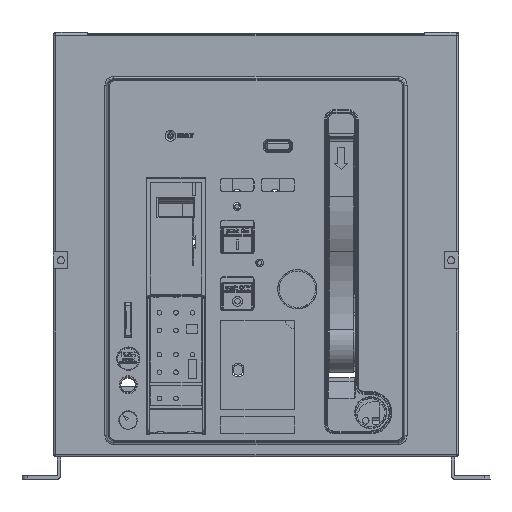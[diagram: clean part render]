
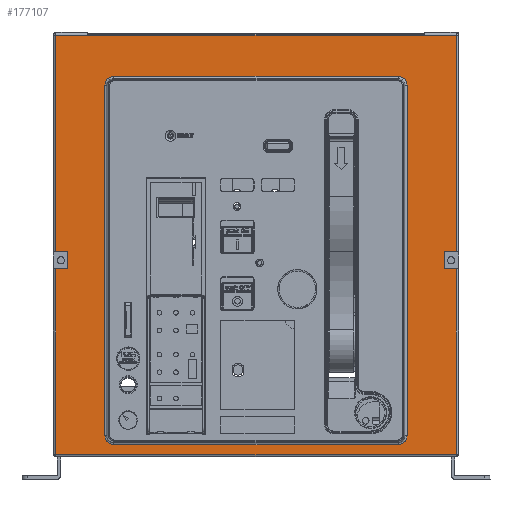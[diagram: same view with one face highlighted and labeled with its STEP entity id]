
A CAD part, top view. The second image highlights one B-rep face of the part: STEP entity #177107.
In plain terms, the highlighted planar face has unit normal (0, 0, 1).
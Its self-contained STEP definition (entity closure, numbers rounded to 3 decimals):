
#157858=DIRECTION('',(0.,1.,0.));
#157859=VECTOR('',#157858,15.4);
#157860=CARTESIAN_POINT('',(-170.5,-21.15,49.));
#157861=LINE('',#157860,#157859);
#157862=DIRECTION('',(-1.,0.,0.));
#157863=VECTOR('',#157862,11.017);
#157864=CARTESIAN_POINT('',(-170.5,-5.75,49.));
#157865=LINE('',#157864,#157863);
#157866=DIRECTION('',(1.,0.,0.));
#157867=VECTOR('',#157866,11.017);
#157868=CARTESIAN_POINT('',(170.5,-21.15,49.));
#157869=LINE('',#157868,#157867);
#157870=CARTESIAN_POINT('',(-136.965,-172.617,
49.));
#157871=CARTESIAN_POINT('',(-136.965,-173.333,
49.));
#157872=CARTESIAN_POINT('',(-136.78,-174.71,
49.));
#157873=CARTESIAN_POINT('',(-135.971,-176.668,
49.));
#157874=CARTESIAN_POINT('',(-134.687,-178.337,
49.));
#157875=CARTESIAN_POINT('',(-133.019,-179.62,
49.));
#157876=CARTESIAN_POINT('',(-131.06,-180.43,
49.));
#157877=CARTESIAN_POINT('',(-129.683,-180.615,
49.));
#157878=CARTESIAN_POINT('',(-128.967,-180.615,
49.));
#157880=CARTESIAN_POINT('',(128.967,-180.615,
49.));
#157881=CARTESIAN_POINT('',(129.683,-180.615,
49.));
#157882=CARTESIAN_POINT('',(131.06,-180.43,
49.));
#157883=CARTESIAN_POINT('',(133.018,-179.621,
49.));
#157884=CARTESIAN_POINT('',(134.687,-178.337,
49.));
#157885=CARTESIAN_POINT('',(135.97,-176.669,
49.));
#157886=CARTESIAN_POINT('',(136.78,-174.71,
49.));
#157887=CARTESIAN_POINT('',(136.965,-173.333,
49.));
#157888=CARTESIAN_POINT('',(136.965,-172.617,
49.));
#157890=CARTESIAN_POINT('',(136.965,145.317,
49.));
#157891=CARTESIAN_POINT('',(136.965,146.033,
49.));
#157892=CARTESIAN_POINT('',(136.78,147.41,
49.));
#157893=CARTESIAN_POINT('',(135.971,149.368,
49.));
#157894=CARTESIAN_POINT('',(134.687,151.037,
49.));
#157895=CARTESIAN_POINT('',(133.019,152.32,
49.));
#157896=CARTESIAN_POINT('',(131.06,153.13,
49.));
#157897=CARTESIAN_POINT('',(129.683,153.315,
49.));
#157898=CARTESIAN_POINT('',(128.967,153.315,
49.));
#157900=CARTESIAN_POINT('',(-128.967,153.315,
49.));
#157901=CARTESIAN_POINT('',(-129.683,153.315,
49.));
#157902=CARTESIAN_POINT('',(-131.06,153.13,
49.));
#157903=CARTESIAN_POINT('',(-133.018,152.321,
49.));
#157904=CARTESIAN_POINT('',(-134.687,151.037,
49.));
#157905=CARTESIAN_POINT('',(-135.97,149.369,
49.));
#157906=CARTESIAN_POINT('',(-136.78,147.41,
49.));
#157907=CARTESIAN_POINT('',(-136.965,146.033,
49.));
#157908=CARTESIAN_POINT('',(-136.965,145.317,
49.));
#157910=DIRECTION('',(0.,1.,0.));
#157911=VECTOR('',#157910,168.5);
#157912=CARTESIAN_POINT('',(181.517,-189.65,49.));
#157913=LINE('',#157912,#157911);
#158026=DIRECTION('',(0.,1.,0.));
#158027=VECTOR('',#158026,15.4);
#158028=CARTESIAN_POINT('',(170.5,-21.15,49.));
#158029=LINE('',#158028,#158027);
#158043=DIRECTION('',(1.,0.,0.));
#158044=VECTOR('',#158043,11.017);
#158045=CARTESIAN_POINT('',(170.5,-5.75,49.));
#158046=LINE('',#158045,#158044);
#158047=DIRECTION('',(0.,1.,0.));
#158048=VECTOR('',#158047,196.517);
#158049=CARTESIAN_POINT('',(181.517,-5.75,49.));
#158050=LINE('',#158049,#158048);
#158078=DIRECTION('',(-1.,0.,0.));
#158079=VECTOR('',#158078,363.035);
#158080=CARTESIAN_POINT('',(181.517,190.767,49.));
#158081=LINE('',#158080,#158079);
#160692=DIRECTION('',(1.,0.,0.));
#160693=VECTOR('',#160692,363.035);
#160694=CARTESIAN_POINT('',(-181.517,-189.65,49.));
#160695=LINE('',#160694,#160693);
#160715=DIRECTION('',(0.,-1.,0.));
#160716=VECTOR('',#160715,168.5);
#160717=CARTESIAN_POINT('',(-181.517,-21.15,49.));
#160718=LINE('',#160717,#160716);
#160736=DIRECTION('',(-1.,0.,0.));
#160737=VECTOR('',#160736,11.017);
#160738=CARTESIAN_POINT('',(-170.5,-21.15,49.));
#160739=LINE('',#160738,#160737);
#160767=DIRECTION('',(0.,-1.,0.));
#160768=VECTOR('',#160767,196.517);
#160769=CARTESIAN_POINT('',(-181.517,190.767,49.));
#160770=LINE('',#160769,#160768);
#163396=DIRECTION('',(-1.,0.,0.));
#163397=VECTOR('',#163396,257.933);
#163398=CARTESIAN_POINT('',(128.967,-180.615,
49.));
#163399=LINE('',#163398,#163397);
#163414=DIRECTION('',(0.,-1.,0.));
#163415=VECTOR('',#163414,317.933);
#163416=CARTESIAN_POINT('',(136.965,145.317,
49.));
#163417=LINE('',#163416,#163415);
#163432=DIRECTION('',(1.,0.,0.));
#163433=VECTOR('',#163432,257.933);
#163434=CARTESIAN_POINT('',(-128.967,153.315,
49.));
#163435=LINE('',#163434,#163433);
#163450=DIRECTION('',(0.,1.,0.));
#163451=VECTOR('',#163450,317.933);
#163452=CARTESIAN_POINT('',(-136.965,-172.617,
49.));
#163453=LINE('',#163452,#163451);
#173011=CARTESIAN_POINT('',(181.517,-189.65,49.));
#173012=CARTESIAN_POINT('',(181.517,-21.15,49.));
#173013=VERTEX_POINT('',#173011);
#173014=VERTEX_POINT('',#173012);
#173015=CARTESIAN_POINT('',(-181.517,-189.65,49.));
#173016=VERTEX_POINT('',#173015);
#173017=CARTESIAN_POINT('',(-181.517,-21.15,49.));
#173018=VERTEX_POINT('',#173017);
#173019=CARTESIAN_POINT('',(-170.5,-21.15,49.));
#173020=VERTEX_POINT('',#173019);
#173021=CARTESIAN_POINT('',(-170.5,-5.75,49.));
#173022=VERTEX_POINT('',#173021);
#173023=CARTESIAN_POINT('',(-181.517,-5.75,49.));
#173024=VERTEX_POINT('',#173023);
#173025=CARTESIAN_POINT('',(-181.517,190.767,49.));
#173026=VERTEX_POINT('',#173025);
#173027=CARTESIAN_POINT('',(181.517,190.767,49.));
#173028=VERTEX_POINT('',#173027);
#173029=CARTESIAN_POINT('',(181.517,-5.75,49.));
#173030=VERTEX_POINT('',#173029);
#173031=CARTESIAN_POINT('',(170.5,-5.75,49.));
#173032=VERTEX_POINT('',#173031);
#173033=CARTESIAN_POINT('',(170.5,-21.15,49.));
#173034=VERTEX_POINT('',#173033);
#173035=CARTESIAN_POINT('',(-136.965,-172.617,
49.));
#173036=CARTESIAN_POINT('',(-136.965,145.317,
49.));
#173037=VERTEX_POINT('',#173035);
#173038=VERTEX_POINT('',#173036);
#173039=VERTEX_POINT('',#157878);
#173040=CARTESIAN_POINT('',(128.967,-180.615,
49.));
#173041=VERTEX_POINT('',#173040);
#173042=VERTEX_POINT('',#157888);
#173043=CARTESIAN_POINT('',(136.965,145.317,
49.));
#173044=VERTEX_POINT('',#173043);
#173045=VERTEX_POINT('',#157898);
#173046=CARTESIAN_POINT('',(-128.967,153.315,
49.));
#173047=VERTEX_POINT('',#173046);
#177058=CARTESIAN_POINT('',(0.,0.,49.));
#177059=DIRECTION('',(0.,0.,1.));
#177060=DIRECTION('',(1.,0.,0.));
#177061=AXIS2_PLACEMENT_3D('',#177058,#177059,#177060);
#177062=PLANE('',#177061);
#177064=ORIENTED_EDGE('',*,*,#177063,.F.);
#177066=ORIENTED_EDGE('',*,*,#177065,.F.);
#177068=ORIENTED_EDGE('',*,*,#177067,.F.);
#177070=ORIENTED_EDGE('',*,*,#177069,.F.);
#177072=ORIENTED_EDGE('',*,*,#177071,.T.);
#177074=ORIENTED_EDGE('',*,*,#177073,.T.);
#177076=ORIENTED_EDGE('',*,*,#177075,.F.);
#177078=ORIENTED_EDGE('',*,*,#177077,.F.);
#177080=ORIENTED_EDGE('',*,*,#177079,.F.);
#177082=ORIENTED_EDGE('',*,*,#177081,.F.);
#177084=ORIENTED_EDGE('',*,*,#177083,.F.);
#177086=ORIENTED_EDGE('',*,*,#177085,.T.);
#177087=EDGE_LOOP('',(#177064,#177066,#177068,#177070,#177072,#177074,#177076,
#177078,#177080,#177082,#177084,#177086));
#177088=FACE_OUTER_BOUND('',#177087,.F.);
#177090=ORIENTED_EDGE('',*,*,#177089,.F.);
#177092=ORIENTED_EDGE('',*,*,#177091,.T.);
#177094=ORIENTED_EDGE('',*,*,#177093,.F.);
#177096=ORIENTED_EDGE('',*,*,#177095,.T.);
#177098=ORIENTED_EDGE('',*,*,#177097,.F.);
#177100=ORIENTED_EDGE('',*,*,#177099,.T.);
#177102=ORIENTED_EDGE('',*,*,#177101,.F.);
#177104=ORIENTED_EDGE('',*,*,#177103,.T.);
#177105=EDGE_LOOP('',(#177090,#177092,#177094,#177096,#177098,#177100,#177102,
#177104));
#177106=FACE_BOUND('',#177105,.F.);
#177107=ADVANCED_FACE('',(#177088,#177106),#177062,.T.);
#157879=B_SPLINE_CURVE_WITH_KNOTS('',3,(#157870,#157871,#157872,#157873,#157874,
#157875,#157876,#157877,#157878),.UNSPECIFIED.,.F.,.F.,(4,1,1,1,1,1,4),(0.,
0.167,0.333,0.5,0.667,0.833,
1.),.UNSPECIFIED.);
#157889=B_SPLINE_CURVE_WITH_KNOTS('',3,(#157880,#157881,#157882,#157883,#157884,
#157885,#157886,#157887,#157888),.UNSPECIFIED.,.F.,.F.,(4,1,1,1,1,1,4),(0.,
0.167,0.333,0.5,0.667,0.833,
1.),.UNSPECIFIED.);
#157899=B_SPLINE_CURVE_WITH_KNOTS('',3,(#157890,#157891,#157892,#157893,#157894,
#157895,#157896,#157897,#157898),.UNSPECIFIED.,.F.,.F.,(4,1,1,1,1,1,4),(0.,
0.167,0.333,0.5,0.667,0.833,
1.),.UNSPECIFIED.);
#157909=B_SPLINE_CURVE_WITH_KNOTS('',3,(#157900,#157901,#157902,#157903,#157904,
#157905,#157906,#157907,#157908),.UNSPECIFIED.,.F.,.F.,(4,1,1,1,1,1,4),(0.,
0.167,0.333,0.5,0.667,0.833,
1.),.UNSPECIFIED.);
#177063=EDGE_CURVE('',#173013,#173014,#157913,.T.);
#177065=EDGE_CURVE('',#173016,#173013,#160695,.T.);
#177067=EDGE_CURVE('',#173018,#173016,#160718,.T.);
#177069=EDGE_CURVE('',#173020,#173018,#160739,.T.);
#177071=EDGE_CURVE('',#173020,#173022,#157861,.T.);
#177073=EDGE_CURVE('',#173022,#173024,#157865,.T.);
#177075=EDGE_CURVE('',#173026,#173024,#160770,.T.);
#177077=EDGE_CURVE('',#173028,#173026,#158081,.T.);
#177079=EDGE_CURVE('',#173030,#173028,#158050,.T.);
#177081=EDGE_CURVE('',#173032,#173030,#158046,.T.);
#177083=EDGE_CURVE('',#173034,#173032,#158029,.T.);
#177085=EDGE_CURVE('',#173034,#173014,#157869,.T.);
#177089=EDGE_CURVE('',#173037,#173038,#163453,.T.);
#177091=EDGE_CURVE('',#173037,#173039,#157879,.T.);
#177093=EDGE_CURVE('',#173041,#173039,#163399,.T.);
#177095=EDGE_CURVE('',#173041,#173042,#157889,.T.);
#177097=EDGE_CURVE('',#173044,#173042,#163417,.T.);
#177099=EDGE_CURVE('',#173044,#173045,#157899,.T.);
#177101=EDGE_CURVE('',#173047,#173045,#163435,.T.);
#177103=EDGE_CURVE('',#173047,#173038,#157909,.T.);
